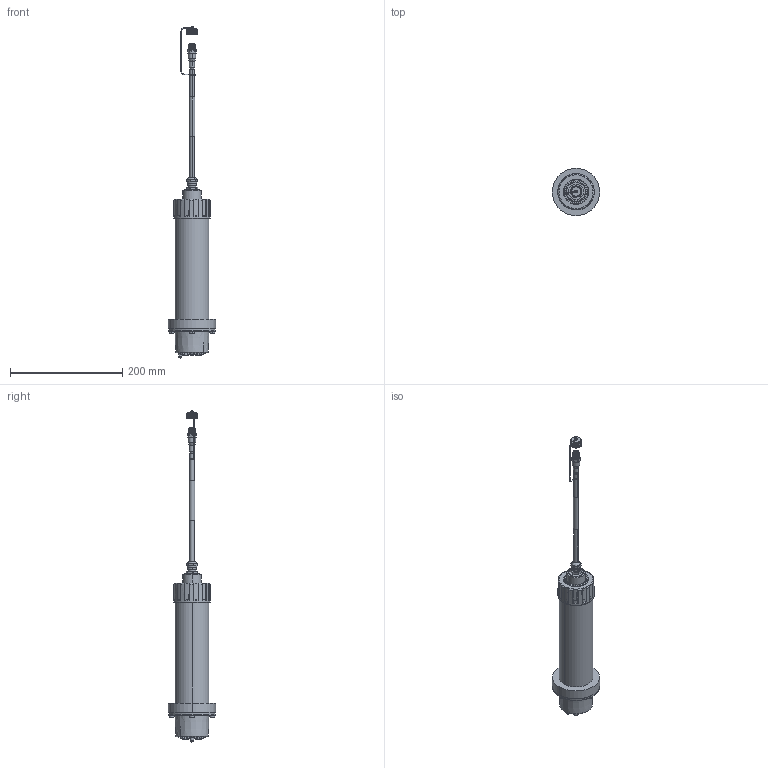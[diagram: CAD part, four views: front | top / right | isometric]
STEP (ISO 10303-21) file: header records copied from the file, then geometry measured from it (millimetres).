
FILE_DESCRIPTION (( 'STEP AP203' ), '1' );
FILE_NAME ('LXV440_TD_00000__002.STEP', '2016-02-17T07:11:43', ( 'Hach Lange' ), ( 'Hach Lange' ), 'SwSTEP 2.0', 'SolidWorks 2015', '' );
FILE_SCHEMA (( 'CONFIG_CONTROL_DESIGN' ));
Length unit declared in the file: millimetre
Products named in the file (4): LXV440#1.TD_Sondenkörper; BVQ935.TD_Cartridge; HRS251_Flachkopfschraube DIN923 Innensechskant; LXV440_TD_00000__002
Assembly tree (6 placements, depth 2):
  LXV440_TD_00000__002
    LXV440#1.TD_Sondenkörper
    BVQ935.TD_Cartridge
    HRS251_Flachkopfschraube DIN923 Innensechskant  x4
Bounding box: 84.5 x 84.5 x 592.1 mm (x, y, z)
Volume: 811536.1 mm3; surface area: 127213 mm2
Topology: 13 solids, 13 shells, 1717 faces, 4178 edges, 2493 vertices
Faces by surface type: bspline 544, torus 336, plane 326, cone 238, cylinder 232, sphere 41
Entity records: 66772 total; most frequent: CARTESIAN_POINT 31848, ORIENTED_EDGE 7886, DIRECTION 6528, EDGE_CURVE 3943, AXIS2_PLACEMENT_3D 2915, VERTEX_POINT 2381, CIRCLE 1811, EDGE_LOOP 1696
